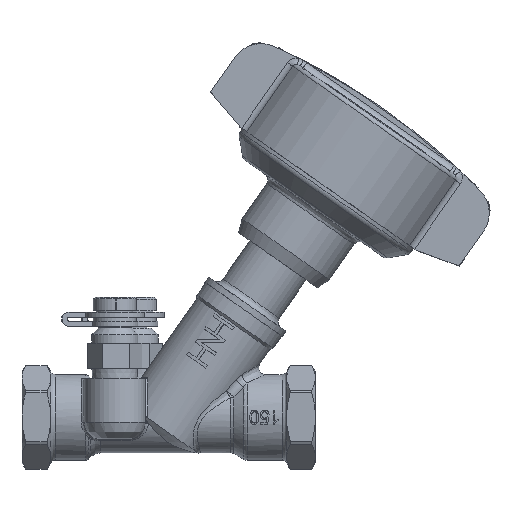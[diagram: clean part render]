
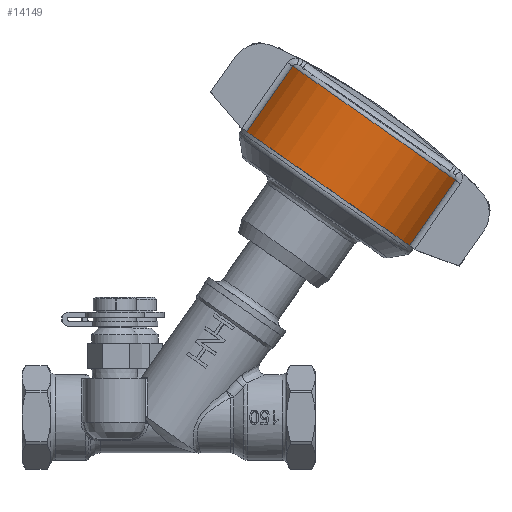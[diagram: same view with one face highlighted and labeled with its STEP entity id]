
A CAD part, top view. The second image highlights one B-rep face of the part: STEP entity #14149.
In plain terms, the highlighted cylindrical face has radius 31.925 mm (diameter 63.85 mm), a partial arc.
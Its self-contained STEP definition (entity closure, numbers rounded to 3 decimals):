
#13008=CARTESIAN_POINT('',(41.5,70.335,12.328));
#13009=VERTEX_POINT('',#13008);
#13017=CARTESIAN_POINT('',(27.906,50.921,12.328));
#13018=VERTEX_POINT('',#13017);
#13019=CARTESIAN_POINT('',(41.5,70.335,12.328));
#13020=DIRECTION('',(-0.574,-0.819,0.));
#13021=VECTOR('',#13020,23.7);
#13022=LINE('',#13019,#13021);
#13023=EDGE_CURVE('',#13009,#13018,#13022,.T.);
#13418=CARTESIAN_POINT('',(-6.746,104.118,12.328));
#13419=VERTEX_POINT('',#13418);
#13449=CARTESIAN_POINT('',(-20.34,84.704,12.328));
#13450=VERTEX_POINT('',#13449);
#13458=CARTESIAN_POINT('',(-20.34,84.704,12.328));
#13459=DIRECTION('',(0.574,0.819,0.0));
#13460=VECTOR('',#13459,23.7);
#13461=LINE('',#13458,#13460);
#13462=EDGE_CURVE('',#13450,#13419,#13461,.T.);
#14122=CARTESIAN_POINT('',(17.377,87.226,0.0));
#14123=DIRECTION('',(-0.574,-0.819,0.0));
#14124=DIRECTION('',(0.819,-0.574,0.0));
#14125=AXIS2_PLACEMENT_3D('',#14122,#14123,#14124);
#14126=CIRCLE('',#14125,31.925);
#14127=EDGE_CURVE('',#13009,#13419,#14126,.T.);
#14132=CARTESIAN_POINT('',(10.58,77.519,0.0));
#14133=DIRECTION('',(-0.574,-0.819,0.0));
#14134=DIRECTION('',(0.819,-0.574,0.0));
#14135=AXIS2_PLACEMENT_3D('',#14132,#14133,#14134);
#14136=CYLINDRICAL_SURFACE('',#14135,31.925);
#14137=ORIENTED_EDGE('',*,*,#13023,.F.);
#14138=ORIENTED_EDGE('',*,*,#14127,.T.);
#14139=ORIENTED_EDGE('',*,*,#13462,.F.);
#14140=CARTESIAN_POINT('',(3.783,67.813,0.0));
#14141=DIRECTION('',(-0.574,-0.819,0.0));
#14142=DIRECTION('',(0.819,-0.574,0.0));
#14143=AXIS2_PLACEMENT_3D('',#14140,#14141,#14142);
#14144=CIRCLE('',#14143,31.925);
#14145=EDGE_CURVE('',#13018,#13450,#14144,.T.);
#14146=ORIENTED_EDGE('',*,*,#14145,.F.);
#14147=EDGE_LOOP('',(#14137,#14138,#14139,#14146));
#14148=FACE_OUTER_BOUND('',#14147,.T.);
#14149=ADVANCED_FACE('',(#14148),#14136,.T.);
